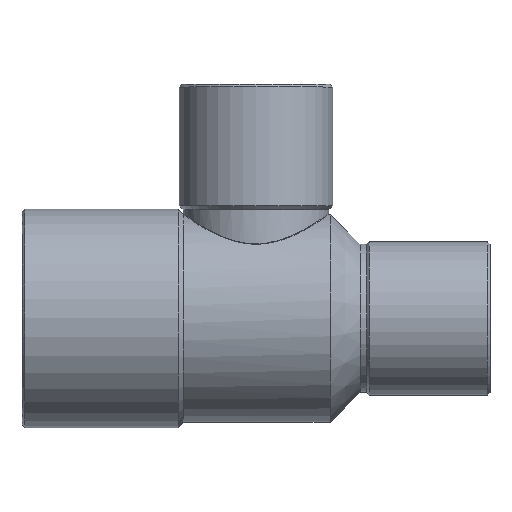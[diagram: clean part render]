
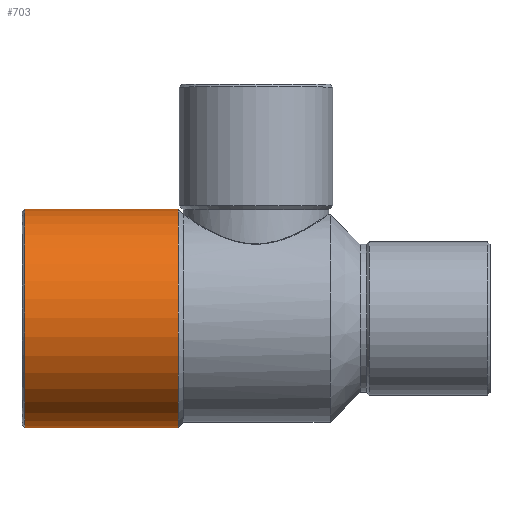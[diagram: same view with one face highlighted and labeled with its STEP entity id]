
A CAD part, top view. The second image highlights one B-rep face of the part: STEP entity #703.
In plain terms, the highlighted cylindrical face has radius 8.4 mm (diameter 16.8 mm), a partial arc.
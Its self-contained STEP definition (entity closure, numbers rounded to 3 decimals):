
#182=CARTESIAN_POINT('',(-6.0,8.4,0.0));
#183=VERTEX_POINT('',#182);
#192=CARTESIAN_POINT('',(-6.,-8.4,0.));
#193=VERTEX_POINT('',#192);
#194=CARTESIAN_POINT('',(-6.,0.0,0.0));
#195=DIRECTION('',(1.0,0.0,0.0));
#196=DIRECTION('',(0.0,1.0,0.0));
#197=AXIS2_PLACEMENT_3D('',#194,#195,#196);
#198=CIRCLE('',#197,8.4);
#199=EDGE_CURVE('',#183,#193,#198,.T.);
#672=CARTESIAN_POINT('',(-12.,0.0,0.0));
#673=DIRECTION('',(1.0,0.0,0.0));
#674=DIRECTION('',(0.0,1.0,0.0));
#675=AXIS2_PLACEMENT_3D('',#672,#673,#674);
#676=CYLINDRICAL_SURFACE('',#675,8.4);
#677=CARTESIAN_POINT('',(-17.8,8.4,0.));
#678=VERTEX_POINT('',#677);
#679=CARTESIAN_POINT('',(-17.8,8.4,0.));
#680=DIRECTION('',(1.0,0.0,0.0));
#681=VECTOR('',#680,11.8);
#682=LINE('',#679,#681);
#683=EDGE_CURVE('',#678,#183,#682,.T.);
#684=ORIENTED_EDGE('',*,*,#683,.F.);
#685=CARTESIAN_POINT('',(-17.8,-8.4,0.));
#686=VERTEX_POINT('',#685);
#687=CARTESIAN_POINT('',(-17.8,0.0,0.0));
#688=DIRECTION('',(-1.0,0.0,0.0));
#689=DIRECTION('',(0.0,-1.0,0.0));
#690=AXIS2_PLACEMENT_3D('',#687,#688,#689);
#691=CIRCLE('',#690,8.4);
#692=EDGE_CURVE('',#686,#678,#691,.T.);
#693=ORIENTED_EDGE('',*,*,#692,.F.);
#694=CARTESIAN_POINT('',(-6.,-8.4,0.));
#695=DIRECTION('',(-1.0,0.0,0.0));
#696=VECTOR('',#695,11.8);
#697=LINE('',#694,#696);
#698=EDGE_CURVE('',#193,#686,#697,.T.);
#699=ORIENTED_EDGE('',*,*,#698,.F.);
#700=ORIENTED_EDGE('',*,*,#199,.F.);
#701=EDGE_LOOP('',(#684,#693,#699,#700));
#702=FACE_OUTER_BOUND('',#701,.T.);
#703=ADVANCED_FACE('',(#702),#676,.T.);
